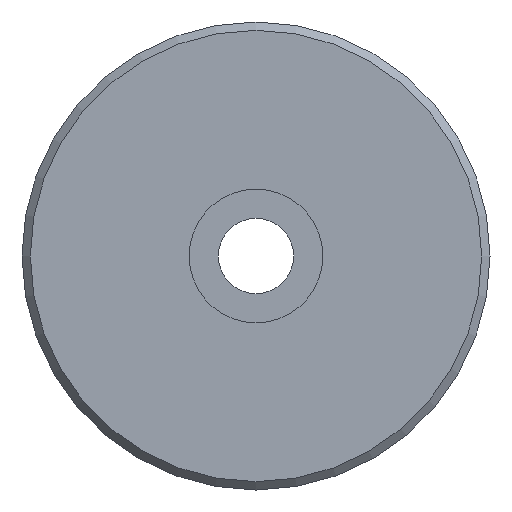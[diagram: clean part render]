
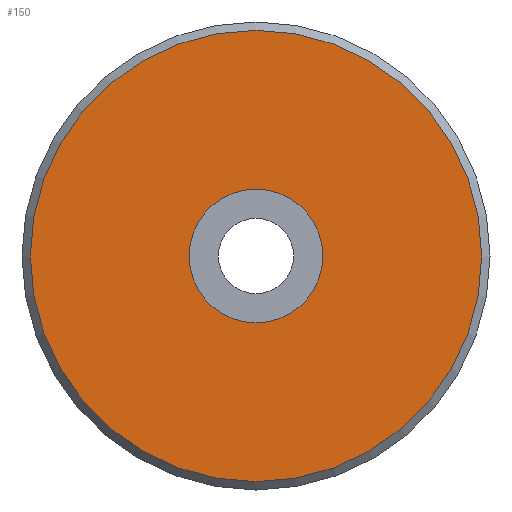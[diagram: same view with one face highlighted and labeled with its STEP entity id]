
A CAD part, left-side view. The second image highlights one B-rep face of the part: STEP entity #150.
In plain terms, the highlighted planar face has unit normal (-1, 0, 0).
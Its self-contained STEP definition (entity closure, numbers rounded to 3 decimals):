
#35=FACE_BOUND('',#57,.T.);
#44=FACE_OUTER_BOUND('',#56,.T.);
#56=EDGE_LOOP('',(#130));
#57=EDGE_LOOP('',(#131));
#63=CIRCLE('',#180,4.);
#71=CIRCLE('',#193,13.5);
#75=VERTEX_POINT('',#257);
#83=VERTEX_POINT('',#282);
#87=EDGE_CURVE('',#75,#75,#63,.T.);
#100=EDGE_CURVE('',#83,#83,#71,.T.);
#130=ORIENTED_EDGE('',*,*,#100,.F.);
#131=ORIENTED_EDGE('',*,*,#87,.T.);
#141=PLANE('',#194);
#150=ADVANCED_FACE('',(#44,#35),#141,.T.);
#180=AXIS2_PLACEMENT_3D('',#258,#208,#209);
#193=AXIS2_PLACEMENT_3D('',#284,#239,#240);
#194=AXIS2_PLACEMENT_3D('',#285,#241,#242);
#208=DIRECTION('center_axis',(1.,0.,0.));
#209=DIRECTION('ref_axis',(0.,0.,1.));
#239=DIRECTION('center_axis',(1.,0.,0.));
#240=DIRECTION('ref_axis',(0.,-1.,0.));
#241=DIRECTION('center_axis',(-1.,0.,0.));
#242=DIRECTION('ref_axis',(0.,0.,1.));
#257=CARTESIAN_POINT('',(-3.,0.,-4.));
#258=CARTESIAN_POINT('Origin',(-3.,0.,0.));
#282=CARTESIAN_POINT('',(-3.,13.5,0.));
#284=CARTESIAN_POINT('Origin',(-3.,0.,0.));
#285=CARTESIAN_POINT('Origin',(-3.,14.,0.));
